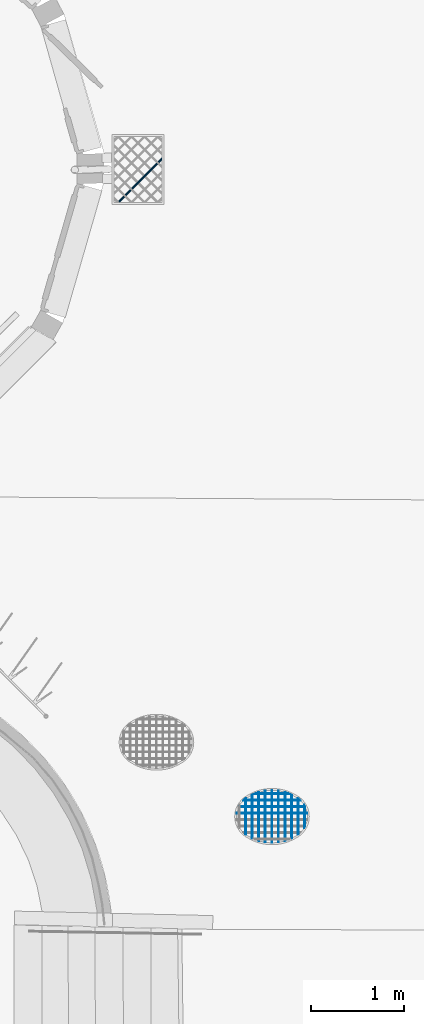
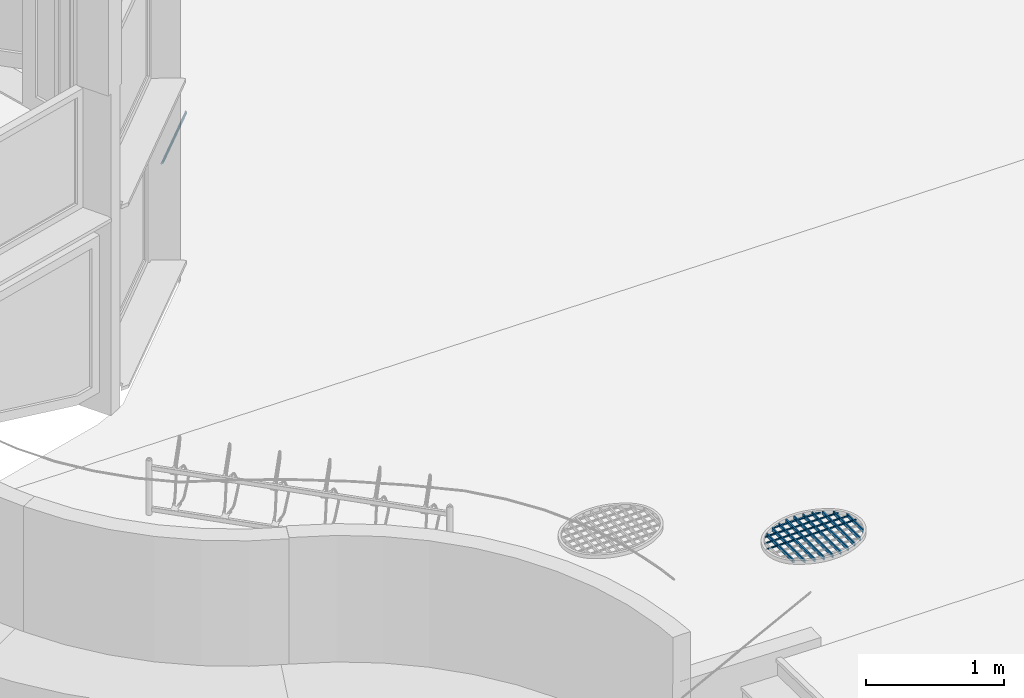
# One storey, part 44 of 133: 15 members, 2 elements without a shape of their own.
"""IFC2X3 building model written with IfcOpenShell, lengths in centimetres."""

from ifc_helpers import new_model, entity, si_unit, converted_unit, direction, frame, origin, origin_with_axes, place, context, subcontext, project, spatial, faceted_brep, material, type_object, element, aggregate, save


model = new_model("IFC2X3")

# Units and contexts
model_context = context("Model", 3, precision=0.0001, world=origin(), true_north=direction((0.225632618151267, 0.974212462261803, 0.0)))
body_context = subcontext(model_context, "Body", "Model", "MODEL_VIEW")
ifc_project = project(units=[si_unit("LENGTHUNIT", "METRE", prefix="CENTI"), si_unit("AREAUNIT", "SQUARE_METRE", prefix="CENTI"), si_unit("VOLUMEUNIT", "CUBIC_METRE", prefix="CENTI"), converted_unit("PLANEANGLEUNIT", "DEGREE", entity("IfcRatioMeasure", 0.0174532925), si_unit("PLANEANGLEUNIT", "RADIAN"), dimensions=[0, 0, 0, 0, 0, 0, 0])], contexts=[model_context])

# Site, building, storey
site_placement = place(None, origin_with_axes())
site = spatial("IfcSite", under=ifc_project, at=site_placement, Name="Default Site", CompositionType="ELEMENT")
building_placement = place(site_placement, origin_with_axes())
building = spatial("IfcBuilding", under=site, at=building_placement, Name="Default Building", CompositionType="ELEMENT")
storey_placement = place(building_placement, frame((0.0, 0.0, -291.400371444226), z_axis=(0.0, 0.0, 1.0), x_axis=(1.0, 0.0, 0.0)))
storey = spatial("IfcBuildingStorey", under=building, at=storey_placement, Name="Rez-de-Jardin", CompositionType="ELEMENT", Elevation=-291.400371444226)

# Assembly, member
building_element_proxy_type = type_object("IfcBuildingElementProxyType", Name="Type Object", PredefinedType="NOTDEFINED")
assembly_1_placement = place(storey_placement, frame((1661.43547545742, -586.48555921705, 97.0), z_axis=(0.0, 1.0, -2.38697950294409e-15), x_axis=(1.0, 0.0, 0.0)))
assembly_1 = element("IfcElementAssembly", 1, at=assembly_1_placement, inside=storey, type_object=building_element_proxy_type, Name="Panneau 294972", ObjectType="Precast panel", PredefinedType="USERDEFINED")
ifc_material_1 = material(Name="Aluminium satiné")
member_1_placement = place(assembly_1_placement, frame((54.000002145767, 0.342020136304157, 48.0289369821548), z_axis=(0.999999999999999, 0.0, 0.0), x_axis=(0.0, -0.774594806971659, -0.632457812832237)))
member_1 = element("IfcMember", 2, at=member_1_placement, material=ifc_material_1, Name="4294966996", context=body_context, shape_type="Brep", body=[
    faceted_brep([(-5.55111512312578e-15, 3.33066907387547e-14, 2.22044604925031e-14), (-0.388290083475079, 3.33066907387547e-14, 2.22044604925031e-14), (-0.799166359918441, -0.150246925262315, 2.22044604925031e-14), (-1.1830751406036, -0.43262366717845, 2.22044604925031e-14), (-1.49370756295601, -0.813066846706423, 2.22044604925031e-14), (-1.69359615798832, -1.24568864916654, 2.22044604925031e-14), (-1.75863854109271, -1.67831715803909, 2.22044604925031e-14), (-1.68097899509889, -2.05875802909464, 2.22044604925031e-14), (-1.46999321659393, -2.34113520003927, 2.22044604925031e-14), (-1.15112495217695, -2.49138464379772, 2.22044604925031e-14), (-0.762838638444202, -2.49138926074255, 2.22044604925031e-14), (-0.351958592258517, -2.34113771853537, 2.22044604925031e-14), (0.0319464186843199, -2.05876559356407, 2.22044604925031e-14), (0.342578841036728, -1.6783224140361, 2.22044604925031e-14), (0.542471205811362, -1.24569599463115, 2.22044604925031e-14), (0.60750981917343, -0.813072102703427, 2.22044604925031e-14), (0.529854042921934, -0.432626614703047, 2.22044604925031e-14), (0.318866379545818, -0.150251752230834, 2.22044604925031e-14), (29.3762878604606, 35.4374622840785, -45.9436528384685), (29.6412148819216, 35.221148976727, -46.0289403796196), (29.8741878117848, 35.0309262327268, -46.2745159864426), (30.0471066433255, 34.8897377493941, -46.6507598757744), (30.1391148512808, 34.8146129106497, -47.1122905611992), (30.1391148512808, 34.8146129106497, -47.6034417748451), (30.0471066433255, 34.8897377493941, -48.064973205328), (29.8741878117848, 35.0309262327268, -48.4412170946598), (29.6412148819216, 35.221148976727, -48.6867927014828), (29.3762878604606, 35.4374622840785, -48.7720802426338), (29.1113608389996, 35.65377559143, -48.6867927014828), (28.8783879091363, 35.8439983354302, -48.4412170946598), (28.7054690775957, 35.9851868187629, -48.064973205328), (28.6134608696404, 36.0603116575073, -47.6034417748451), (28.6134608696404, 36.0603116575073, -47.1122905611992), (28.7054690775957, 35.9851868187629, -46.6507598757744), (28.8783879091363, 35.8439983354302, -46.2745159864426), (29.1113608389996, 35.65377559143, -46.0289403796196), (0.52985315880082, -0.432627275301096, -1.07086510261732e-06), (29.6412153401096, 35.2211493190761, -46.0289398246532), (29.376288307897, 35.4374626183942, -45.9436522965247), (0.607510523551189, -0.813071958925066, 5.56859211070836e-07), (29.8741893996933, 35.0309265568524, -46.2745147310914), (29.6412164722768, 35.221149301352, -46.0289391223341), (0.542470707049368, -1.24569591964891, -2.57365042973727e-07), (30.0471074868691, 34.8897376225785, -46.6507594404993), (29.8741885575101, 35.0309261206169, -46.2745156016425), (0.342579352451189, -1.67832265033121, 1.40415125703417e-07), (30.1391154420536, 34.8146126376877, -47.1122903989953), (30.0471073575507, 34.8897374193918, -46.6507596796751), (0.031946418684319, -2.05876559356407, 2.22044604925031e-14), (30.1391148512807, 34.8146129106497, -47.6034417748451), (30.1391148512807, 34.8146129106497, -47.1122905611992), (-0.351958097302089, -2.34113839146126, -2.08205812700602e-07), (30.047106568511, 34.8897378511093, -48.0649731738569), (30.1391147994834, 34.8146129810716, -47.6034417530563), (-0.762839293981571, -2.49138746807, 9.73995145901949e-07), (29.8741872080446, 35.0309278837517, -48.4412161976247), (30.0471060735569, 34.889739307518, -48.0649723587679), (-1.15112495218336, -2.49138681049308, -1.67831500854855e-06), (29.641214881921, 35.2211487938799, -48.6867928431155), (29.8741878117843, 35.0309260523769, -48.4412172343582), (-1.46999305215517, -2.34113485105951, 3.74318512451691e-07), (29.37628873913, 35.4374641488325, -48.7720782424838), (29.6412157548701, 35.2211508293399, -48.6867907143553), (-1.68097930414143, -2.0587582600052, -3.74318470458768e-07), (29.1113621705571, 35.6537765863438, -48.6867910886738), (29.3762892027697, 35.4374632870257, -48.7720786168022), (-1.75863641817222, -1.67831672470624, 1.67831505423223e-06), (28.8783898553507, 35.8439987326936, -48.4412155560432), (29.1113627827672, 35.653775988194, -48.6867911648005), (-1.69359804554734, -1.24568836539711, -9.73995100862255e-07), (28.7054688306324, 35.9851868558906, -48.064973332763), (28.8783877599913, 35.8439983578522, -48.4412171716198), (-1.49370680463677, -0.813067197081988, 2.08205856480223e-07), (28.613461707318, 36.0603112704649, -47.6034415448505), (28.7054699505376, 35.9851864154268, -48.0649729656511), (-1.1830751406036, -0.432623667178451, 2.22044604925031e-14), (-0.799166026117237, -0.150247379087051, -1.40415081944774e-07), (28.7054689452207, 35.9851869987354, -46.6507598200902), (28.6134608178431, 36.0603117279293, -47.1122905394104), (-0.388290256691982, 4.73689563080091e-07, 2.57365088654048e-07), (28.8783874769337, 35.8439995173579, -46.2745153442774), (28.7054686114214, 35.9851880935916, -46.6507591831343), (-2.1351764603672e-12, -7.18902078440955e-07, -5.56859167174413e-07), (29.1113608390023, 35.6537764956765, -46.0289396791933), (28.878387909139, 35.8439992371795, -46.2745152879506), (0.318866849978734, -0.150250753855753, 1.07086514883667e-06), (29.3762885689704, 35.4374637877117, -45.9436512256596), (29.1113615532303, 35.6537771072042, -46.028938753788)], [[[0, 1, 2, 3, 4, 5, 6, 7, 8, 9, 10, 11, 12, 13, 14, 15, 16, 17]], [[18, 19, 20, 21, 22, 23, 24, 25, 26, 27, 28, 29, 30, 31, 32, 33, 34, 35]], [[17, 36, 37, 38]], [[16, 39, 40, 41]], [[15, 42, 43, 44]], [[14, 45, 46, 47]], [[13, 48, 49, 50]], [[12, 51, 52, 53]], [[11, 54, 55, 56]], [[10, 57, 58, 59]], [[9, 60, 61, 62]], [[8, 63, 64, 65]], [[7, 66, 67, 68]], [[6, 69, 70, 71]], [[5, 72, 73, 74]], [[4, 75, 32, 31]], [[3, 76, 77, 78]], [[2, 79, 80, 81]], [[1, 82, 83, 84]], [[0, 85, 86, 87]]]),
])
aggregate(assembly_1, [member_1])

# Assembly, members
assembly_2_placement = place(storey_placement, frame((1793.16993622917, -1212.9155813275, 107.795800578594), z_axis=(0.0, -1.0, -9.43689570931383e-16), x_axis=(1.0, 0.0, 0.0)))
assembly_2 = element("IfcElementAssembly", 3, at=assembly_2_placement, inside=storey, type_object=building_element_proxy_type, Name="Panneau 294968", ObjectType="Precast panel", PredefinedType="USERDEFINED")
ifc_material_2 = material(Name="Acier")
member_2_placement = place(assembly_2_placement, frame((77.6661574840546, 0.499999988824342, 26.1905789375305), z_axis=(0.989079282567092, -3.98866626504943e-22, -0.147384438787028), x_axis=(-0.147384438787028, -9.33383803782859e-16, -0.989079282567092)))
member_2 = element("IfcMember", 4, at=member_2_placement, material=ifc_material_2, Name="4294966959", context=body_context, shape_type="Brep", body=[
    faceted_brep([(1.94289029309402e-13, 9.54097911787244e-15, -1.11022302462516e-14), (-1.0110403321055, 8.5868812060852e-15, -4.32051911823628e-07), (-1.0110403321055, -0.99999997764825, -4.32051911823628e-07), (1.94289029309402e-13, -0.999999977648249, -1.11022302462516e-14), (11.1028107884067, -0.999999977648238, -74.5096308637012), (10.1356943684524, -0.999999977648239, -74.8043990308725), (10.1356943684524, 1.89952220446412e-14, -74.8043990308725), (11.1028107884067, 1.99493199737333e-14, -74.5096308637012), (-1.01104033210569, -0.99999997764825, -2.22044604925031e-14), (10.1356943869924, -0.999999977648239, -74.804399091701), (-1.01104033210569, 8.58688120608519e-15, -2.23322961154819e-14), (10.1356943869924, 1.8995222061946e-14, -74.804399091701), (-1.01104033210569, 8.5868812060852e-15, -2.22044604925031e-14), (1.94289029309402e-13, 9.53056987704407e-15, -1.11022302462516e-14), (11.1028107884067, 1.98937239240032e-14, -74.5096308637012), (10.1356943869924, 1.89910330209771e-14, -74.804399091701), (1.95202138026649e-13, -0.999999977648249, -1.09661663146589e-14)], [[[0, 1, 2, 3]], [[4, 5, 6, 7]], [[3, 8, 9, 4]], [[8, 10, 11, 9]], [[12, 13, 14, 15]], [[0, 16, 4, 7]]]),
])
member_3_placement = place(assembly_2_placement, frame((75.3061056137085, 0.499999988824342, 19.1905781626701), z_axis=(0.896938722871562, -2.6570814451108e-21, -0.442154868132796), x_axis=(-0.442154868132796, -8.46431718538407e-16, -0.896938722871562)))
member_3 = element("IfcMember", 5, at=member_3_placement, material=ifc_material_2, Name="4294966958", context=body_context, shape_type="Brep", body=[
    faceted_brep([(5.55111512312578e-14, 2.37657116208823e-14, 3.33066907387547e-13), (-1.1149039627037, 2.2811613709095e-14, -3.49985744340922e-06), (-1.1149039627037, -0.999999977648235, -3.49985744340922e-06), (5.55111512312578e-14, -0.999999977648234, 3.33066907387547e-13), (31.2215342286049, -0.999999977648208, -63.3348291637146), (30.5425581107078, -0.999999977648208, -64.2191358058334), (30.5425581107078, 4.96130915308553e-14, -64.2191358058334), (31.2215342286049, 5.02202446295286e-14, -63.3348291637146), (-1.11490396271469, -0.999999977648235, 3.33066907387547e-13), (30.5425579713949, -0.999999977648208, -64.2191356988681), (-1.11490396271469, 2.2811613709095e-14, 3.3276010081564e-13), (30.5425579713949, 4.96130914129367e-14, -64.2191356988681), (-1.11490396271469, 2.2811613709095e-14, 3.33066907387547e-13), (5.55111512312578e-14, 2.37553037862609e-14, 3.33066907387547e-13), (31.2215342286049, 5.01820323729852e-14, -63.3348291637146), (30.5425579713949, 4.96073229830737e-14, -64.2191356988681), (5.61921058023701e-14, -0.999999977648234, 3.33402590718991e-13)], [[[0, 1, 2, 3]], [[4, 5, 6, 7]], [[3, 8, 9, 4]], [[8, 10, 11, 9]], [[12, 13, 14, 15]], [[0, 16, 4, 7]]]),
])
member_4_placement = place(assembly_2_placement, frame((69.760262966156, 0.499999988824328, 12.1905788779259), z_axis=(0.675980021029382, 1.52179475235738e-22, -0.736919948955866), x_axis=(-0.736919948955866, -6.37915296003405e-16, -0.675980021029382)))
member_4 = element("IfcMember", 6, at=member_4_placement, material=ifc_material_2, Name="4294966957", context=body_context, shape_type="Brep", body=[
    faceted_brep([(4.44089209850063e-14, 5.07406616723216e-14, -1.0547118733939e-13), (-1.47933445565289, 4.97865637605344e-14, 3.52906217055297e-07), (-1.47933445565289, -0.999999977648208, 3.52906217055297e-07), (4.44089209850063e-14, -0.999999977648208, -1.0547118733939e-13), (43.8618609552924, -0.999999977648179, -40.2346845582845), (43.9892349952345, -0.999999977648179, -41.7085252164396), (43.9892349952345, 7.88431822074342e-14, -41.7085252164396), (43.8618609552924, 7.8756445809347e-14, -40.2346845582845), (-1.47933445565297, -0.999999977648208, -1.0547118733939e-13), (43.9892346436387, -0.999999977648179, -41.7085252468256), (43.8618609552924, -0.99999997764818, -40.2346845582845), (-1.47933445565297, 4.97865637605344e-14, -1.05726857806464e-13), (43.9892346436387, 7.88431819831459e-14, -41.7085252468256), (-1.47933445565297, 4.97865637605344e-14, -1.0547118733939e-13), (4.44089209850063e-14, 5.07302538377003e-14, -1.0547118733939e-13), (43.8618609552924, 7.8710411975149e-14, -40.2346845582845), (43.9892346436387, 7.87916658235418e-14, -41.7085252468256), (4.47004156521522e-14, -0.999999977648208, -1.05153414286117e-13)], [[[0, 1, 2, 3]], [[4, 5, 6, 7]], [[3, 8, 9, 10]], [[8, 11, 12, 9]], [[13, 14, 15, 16]], [[0, 17, 4, 7]]]),
])
member_5_placement = place(assembly_2_placement, frame((57.2942495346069, 0.499999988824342, 5.19057884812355), z_axis=(0.383760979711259, -1.08145644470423e-22, -0.923432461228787), x_axis=(-0.923432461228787, -3.62151234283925e-16, -0.383760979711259)))
member_5 = element("IfcMember", 7, at=member_5_placement, material=ifc_material_2, Name="4294966956", context=body_context, shape_type="Brep", body=[
    faceted_brep([(-4.44089209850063e-14, 2.45463371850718e-14, 1.38777878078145e-13), (-2.60578809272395, 2.35922392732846e-14, -7.7814061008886e-07), (-2.60578809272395, -0.999999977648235, -7.7814061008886e-07), (-4.44089209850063e-14, -0.999999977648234, 1.38777878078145e-13), (31.9401417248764, -0.999999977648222, -13.2737158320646), (33.7784064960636, -0.999999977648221, -15.1205799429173), (33.7784064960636, 3.6776137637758e-14, -15.1205799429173), (31.9401417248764, 3.60822483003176e-14, -13.2737158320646), (-2.60578809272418, -0.999999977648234, 1.38777878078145e-13), (33.778406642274, -0.999999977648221, -15.1205797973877), (-2.60578809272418, -0.999999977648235, 1.38777878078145e-13), (-2.60578809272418, 2.35922392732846e-14, 1.38617688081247e-13), (33.778406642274, 3.67761376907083e-14, -15.1205797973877), (-2.60578809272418, 2.35922392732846e-14, 1.38777878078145e-13), (-4.44089209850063e-14, 2.4535928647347e-14, 1.38777878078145e-13), (31.9401417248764, 3.61030889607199e-14, -13.2737158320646), (33.778406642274, 3.6768818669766e-14, -15.1205797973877), (-4.43555860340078e-14, -0.999999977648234, 1.38906216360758e-13)], [[[0, 1, 2, 3]], [[4, 5, 6, 7]], [[3, 8, 9, 4]], [[10, 11, 12, 9]], [[13, 14, 15, 16]], [[0, 17, 4, 7]]]),
])
member_6_placement = place(assembly_2_placement, frame((12.5, 1.4999999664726, 49.9091804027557), z_axis=(-0.578903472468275, -4.55363556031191e-22, 0.815396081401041), x_axis=(0.815396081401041, 5.46305169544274e-16, 0.578903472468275)))
member_6 = element("IfcMember", 8, at=member_6_placement, material=ifc_material_2, Name="4294966954", context=body_context, shape_type="Brep", body=[
    faceted_brep([(0.0, -6.50521303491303e-14, 4.9960036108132e-14), (-1.22639759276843, -6.43582409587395e-14, 1.02224329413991e-06), (-1.22639759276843, -2.99999993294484, 1.02224329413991e-06), (0.0, -2.99999993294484, 4.9960036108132e-14), (-22.8303333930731, -2.99999993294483, -32.1569402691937), (-23.2347283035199, -2.99999993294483, -30.9991347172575), (-23.2347283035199, -5.23886490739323e-14, -30.9991347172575), (-22.8303333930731, -5.25621213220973e-14, -32.1569402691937), (-1.22639759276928, -2.99999993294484, 4.9960036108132e-14), (-23.2347284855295, -2.99999993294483, -30.9991347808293), (-1.22639759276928, -6.43582409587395e-14, 4.91566461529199e-14), (-23.2347284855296, -5.23886489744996e-14, -30.9991347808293), (-23.2347284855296, -2.99999993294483, -30.9991347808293), (-1.22639759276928, -6.43582409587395e-14, 4.9960036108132e-14), (1.30578110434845e-32, -6.50282283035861e-14, 4.9960036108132e-14), (-22.8303333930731, -5.25559137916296e-14, -32.1569402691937), (-23.2347284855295, -5.23349901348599e-14, -30.9991347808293), (-1.08966763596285e-15, -2.99999993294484, 5.07336630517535e-14)], [[[0, 1, 2, 3]], [[4, 5, 6, 7]], [[3, 8, 9, 4]], [[8, 10, 11, 12]], [[13, 14, 15, 16]], [[0, 17, 4, 7]]]),
])
member_7_placement = place(assembly_2_placement, frame((19.4999992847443, 1.4999999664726, 53.8079917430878), z_axis=(-0.435682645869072, -5.25057452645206e-23, 0.900100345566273), x_axis=(0.900100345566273, 4.11149169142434e-16, 0.435682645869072)))
member_7 = element("IfcMember", 9, at=member_7_placement, material=ifc_material_2, Name="4294966953", context=body_context, shape_type="Brep", body=[
    faceted_brep([(-8.32667268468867e-14, 5.20417042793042e-15, -1.99840144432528e-13), (-1.11098618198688, 5.55111512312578e-15, 1.41878130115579e-07), (-1.11098618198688, -2.99999993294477, 1.41878130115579e-07), (-8.32667268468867e-14, -2.99999993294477, -1.99840144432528e-13), (-20.5793942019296, -2.99999993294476, -42.5160836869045), (-21.2686071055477, -2.99999993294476, -41.6447193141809), (-21.2686071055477, 1.38777878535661e-14, -41.6447193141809), (-20.5793942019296, 1.37043154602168e-14, -42.5160836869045), (-1.11098618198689, -2.99999993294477, -1.99840144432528e-13), (-21.2686069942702, -2.99999993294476, -41.6447192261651), (-1.11098618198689, 5.55111512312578e-15, -2.00293617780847e-13), (-21.2686069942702, 1.38777878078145e-14, -41.6447192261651), (-1.11098618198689, 5.55111512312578e-15, -1.99840144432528e-13), (-8.32667268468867e-14, 5.09433407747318e-15, -1.99840144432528e-13), (-20.5793942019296, 1.35555326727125e-14, -42.5160836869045), (-21.2686069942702, 1.38389019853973e-14, -41.6447192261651), (-8.42660421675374e-14, -2.99999993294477, -1.99356437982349e-13)], [[[0, 1, 2, 3]], [[4, 5, 6, 7]], [[3, 8, 9, 4]], [[8, 10, 11, 9]], [[12, 13, 14, 15]], [[0, 16, 4, 7]]]),
])
member_8_placement = place(assembly_2_placement, frame((26.4999985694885, 1.4999999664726, 56.4549505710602), z_axis=(-0.290456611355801, -4.55142483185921e-22, 0.956888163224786), x_axis=(0.956888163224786, 2.74100874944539e-16, 0.290456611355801)))
member_8 = element("IfcMember", 10, at=member_8_placement, material=ifc_material_2, Name="4294966952", context=body_context, shape_type="Brep", body=[
    faceted_brep([(-3.33066907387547e-13, -1.17961196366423e-14, -3.88578058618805e-14), (-1.0450532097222, -1.14491749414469e-14, 1.73530311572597e-06), (-1.0450532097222, -2.99999993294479, 1.73530311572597e-06), (-3.33066907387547e-13, -2.99999993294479, -3.88578058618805e-14), (-15.2573209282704, -2.99999993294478, -50.2641331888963), (-16.126042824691, -2.99999993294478, -49.6832222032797), (-16.126042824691, -7.28583855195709e-15, -49.6832222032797), (-15.2573209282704, -7.63278329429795e-15, -50.2641331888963), (-1.04505320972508, -2.99999993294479, -2.77555756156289e-14), (-16.12604265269, -2.99999993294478, -49.6832219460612), (-1.04505320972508, -1.14491749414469e-14, -2.80075065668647e-14), (-16.12604265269, -7.28583859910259e-15, -49.6832219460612), (-1.04505320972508, -1.14491749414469e-14, -2.77555756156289e-14), (-3.33066907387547e-13, -1.17356249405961e-14, -3.88578058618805e-14), (-15.2573209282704, -7.55360280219e-15, -50.2641331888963), (-16.12604265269, -7.31548515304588e-15, -49.6832219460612), (-3.33819836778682e-13, -2.99999993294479, -3.86292594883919e-14)], [[[0, 1, 2, 3]], [[4, 5, 6, 7]], [[3, 8, 9, 4]], [[8, 10, 11, 9]], [[12, 13, 14, 15]], [[0, 16, 4, 7]]]),
])
member_9_placement = place(assembly_2_placement, frame((33.500000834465, 1.4999999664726, 57.9435467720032), z_axis=(-0.145231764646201, -5.90074676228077e-22, 0.989397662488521), x_axis=(0.989397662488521, 1.37053701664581e-16, 0.145231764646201)))
member_9 = element("IfcMember", 11, at=member_9_placement, material=ifc_material_2, Name="4294966951", context=body_context, shape_type="Brep", body=[
    faceted_brep([(1.22124532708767e-13, 1.6306400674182e-14, -5.55111512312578e-14), (-1.01071799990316, 1.64798730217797e-14, 4.35157227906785e-06), (-1.01071799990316, -2.99999993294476, 4.35157227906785e-06), (1.22124532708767e-13, -2.99999993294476, -5.55111512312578e-14), (-8.06122468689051, -2.99999993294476, -54.9174409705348), (-9.02930662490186, -2.99999993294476, -54.6269812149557), (-9.02930662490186, 1.75207070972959e-14, -54.6269812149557), (-8.06122468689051, 1.75207071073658e-14, -54.9174409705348), (-1.0107179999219, -2.99999993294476, -5.55111512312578e-14), (-9.02930669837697, -2.99999993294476, -54.6269814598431), (-1.01071799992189, 1.64798730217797e-14, -5.55615386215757e-14), (-9.02930669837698, 1.75207071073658e-14, -54.6269814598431), (-9.02930669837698, -2.99999993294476, -54.6269814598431), (-1.0107179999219, 1.64798730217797e-14, -5.55111512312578e-14), (1.22124532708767e-13, 1.63413503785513e-14, -5.55111512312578e-14), (-8.06122468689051, 1.74461386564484e-14, -54.9174409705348), (-9.02930669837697, 1.75788180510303e-14, -54.6269814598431), (1.21722043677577e-13, -2.99999993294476, -5.54520706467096e-14)], [[[0, 1, 2, 3]], [[4, 5, 6, 7]], [[3, 8, 9, 4]], [[8, 10, 11, 12]], [[13, 14, 15, 16]], [[0, 17, 4, 7]]]),
])
member_10_placement = place(assembly_2_placement, frame((40.5000001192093, 1.4999999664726, 58.3811581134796), z_axis=(0.0, 0.0, 1.0), x_axis=(1.0, 0.0, 0.0)))
member_10 = element("IfcMember", 12, at=member_10_placement, material=ifc_material_2, Name="4294966950", context=body_context, shape_type="Brep", body=[
    faceted_brep([(0.0, 0.0, -1.77635683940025e-13), (-0.999999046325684, 0.0, -1.99840123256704e-13), (-0.999999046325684, -2.99999993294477, -1.99840123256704e-13), (0.0, -2.99999993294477, -1.77635683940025e-13), (0.0, -2.99999993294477, -56.3811581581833), (-0.999999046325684, -2.99999993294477, -56.3811581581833), (-0.999999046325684, 0.0, -56.3811581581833), (0.0, 0.0, -56.3811581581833), (-0.999999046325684, -2.99999993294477, -1.77635683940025e-13), (-0.999999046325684, 0.0, -1.77635683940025e-13), (-0.999999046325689, 0.0, -56.3811581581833), (-0.999999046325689, -2.99999993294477, -56.3811581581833), (-5.5511151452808e-15, -2.99999993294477, -56.3811581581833), (-5.5511151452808e-15, 0.0, -56.3811581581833)], [[[0, 1, 2, 3]], [[4, 5, 6, 7]], [[3, 8, 5, 4]], [[8, 9, 10, 11]], [[9, 0, 7, 6]], [[0, 3, 12, 13]]]),
])
member_11_placement = place(assembly_2_placement, frame((47.4999994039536, 1.4999999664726, 57.7967584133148), z_axis=(0.145232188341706, -6.48767873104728e-22, 0.989397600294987), x_axis=(0.989397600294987, -1.3705410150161e-16, -0.145232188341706)))
member_11 = element("IfcMember", 13, at=member_11_placement, material=ifc_material_2, Name="4294966949", context=body_context, shape_type="Brep", body=[
    faceted_brep([(-8.32667268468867e-14, 4.85722573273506e-15, -1.88737914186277e-13), (-1.01071505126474, 4.85722573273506e-15, -4.78438421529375e-06), (-1.01071505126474, -2.99999993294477, -4.78438421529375e-06), (-8.32667268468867e-14, -2.99999993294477, -1.88737914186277e-13), (8.01861209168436, -2.99999993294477, -54.6269780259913), (7.05053310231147, -2.99999993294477, -54.9174373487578), (7.05053310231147, 5.89805981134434e-15, -54.9174373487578), (8.01861209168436, 6.07153216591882e-15, -54.6269780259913), (-1.01071505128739, -2.99999993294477, -1.77635683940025e-13), (7.05053315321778, -2.99999993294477, -54.9174375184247), (-1.01071505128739, 4.85722573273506e-15, -1.77686071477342e-13), (7.05053315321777, 5.89805981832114e-15, -54.9174375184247), (7.05053315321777, -2.99999993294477, -54.9174375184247), (-1.01071505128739, 4.85722573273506e-15, -1.77635683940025e-13), (-8.32667268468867e-14, 4.99574837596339e-15, -1.88737914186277e-13), (8.01861209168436, 6.0946966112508e-15, -54.6269780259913), (7.05053315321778, 5.96201723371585e-15, -54.9174375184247), (-8.2864236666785e-14, -2.99999993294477, -1.88678833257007e-13)], [[[0, 1, 2, 3]], [[4, 5, 6, 7]], [[3, 8, 9, 4]], [[8, 10, 11, 12]], [[13, 14, 15, 16]], [[0, 17, 4, 7]]]),
])
member_12_placement = place(assembly_2_placement, frame((54.5000016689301, 1.4999999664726, 56.151407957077), z_axis=(0.290456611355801, -4.55142483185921e-22, 0.956888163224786), x_axis=(0.956888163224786, -2.74100874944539e-16, -0.290456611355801)))
member_12 = element("IfcMember", 14, at=member_12_placement, material=ifc_material_2, Name="4294966948", context=body_context, shape_type="Brep", body=[
    faceted_brep([(7.21644966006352e-14, -3.48679418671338e-14, -3.77475828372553e-13), (-1.0450532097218, -3.52148865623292e-14, -1.73530353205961e-06), (-1.0450532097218, -2.99999993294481, -1.73530353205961e-06), (7.21644966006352e-14, -2.99999993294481, -3.77475828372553e-13), (15.080989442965, -2.9999999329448, -49.6832219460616), (14.2122675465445, -2.99999993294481, -50.2641329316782), (14.2122675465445, -3.10515502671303e-14, -50.2641329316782), (15.080989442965, -3.08780778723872e-14, -49.6832219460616), (-1.04505320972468, -2.99999993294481, -3.77475828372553e-13), (14.2122677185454, -2.9999999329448, -50.2641331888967), (15.080989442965, -2.9999999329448, -49.6832219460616), (-1.04505320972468, -3.52148865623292e-14, -3.77727759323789e-13), (14.2122677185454, -3.10515502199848e-14, -50.2641331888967), (-1.04505320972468, -3.52148865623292e-14, -3.77475828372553e-13), (7.21644966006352e-14, -3.492843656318e-14, -3.77475828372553e-13), (15.080989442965, -3.0794746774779e-14, -49.6832219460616), (14.2122677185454, -3.10328644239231e-14, -50.2641331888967), (7.29174259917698e-14, -2.99999993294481, -3.77247281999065e-13)], [[[0, 1, 2, 3]], [[4, 5, 6, 7]], [[3, 8, 9, 10]], [[8, 11, 12, 9]], [[13, 14, 15, 16]], [[0, 17, 4, 7]]]),
])
member_13_placement = place(assembly_2_placement, frame((61.5000009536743, 1.4999999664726, 53.3239543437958), z_axis=(0.435682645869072, -5.25057452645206e-23, 0.900100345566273), x_axis=(0.900100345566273, -4.11149169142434e-16, -0.435682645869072)))
member_13 = element("IfcMember", 15, at=member_13_placement, material=ifc_material_2, Name="4294966947", context=body_context, shape_type="Brep", body=[
    faceted_brep([(1.55431223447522e-13, -9.19403442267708e-15, -1.77635683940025e-13), (-1.11098618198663, -9.54097911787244e-15, -1.41878507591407e-07), (-1.11098618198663, -2.99999993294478, -1.41878507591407e-07), (1.55431223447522e-13, -2.99999993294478, -1.77635683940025e-13), (20.1576208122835, -2.99999993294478, -41.6447192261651), (19.4684079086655, -2.99999993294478, -42.5160835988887), (19.4684079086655, -1.2143064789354e-15, -42.5160835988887), (20.1576208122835, -8.67361737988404e-16, -41.6447192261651), (-1.11098618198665, -2.99999993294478, -1.77635683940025e-13), (19.4684080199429, -2.99999993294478, -42.5160836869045), (-1.11098618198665, -9.54097911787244e-15, -1.78089157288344e-13), (19.4684080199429, -1.21430643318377e-15, -42.5160836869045), (-1.11098618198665, -9.54097911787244e-15, -1.77635683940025e-13), (1.55431223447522e-13, -9.08419807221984e-15, -1.77635683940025e-13), (20.1576208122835, -7.96411209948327e-16, -41.6447192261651), (19.4684080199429, -1.07978052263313e-15, -42.5160836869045), (1.56430538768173e-13, -2.99999993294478, -1.77151977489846e-13), (20.1576208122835, -2.99999993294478, -41.6447192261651), (20.1576208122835, -8.67361737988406e-16, -41.6447192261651)], [[[0, 1, 2, 3]], [[4, 5, 6, 7]], [[3, 8, 9, 4]], [[8, 10, 11, 9]], [[12, 13, 14, 15]], [[0, 16, 17, 18]]]),
])
member_14_placement = place(assembly_2_placement, frame((68.5000002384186, 1.4999999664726, 49.1992145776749), z_axis=(0.578903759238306, -6.47496232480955e-22, 0.815395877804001), x_axis=(0.815395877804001, -5.46305440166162e-16, -0.578903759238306)))
member_14 = element("IfcMember", 16, at=member_14_placement, material=ifc_material_2, Name="4294966946", context=body_context, shape_type="Brep", body=[
    faceted_brep([(6.66133814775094e-14, -2.98372437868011e-14, -3.88578058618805e-13), (-1.22639698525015, -3.05311331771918e-14, -1.45355982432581e-06), (-1.22639698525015, -2.9999999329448, -1.45355982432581e-06), (6.66133814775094e-14, -2.9999999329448, -3.88578058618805e-13), (22.0083417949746, -2.99999993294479, -30.9991270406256), (21.6039474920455, -2.99999993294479, -32.1569321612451), (21.6039474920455, -1.80411242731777e-14, -32.1569321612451), (22.0083417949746, -1.76941794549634e-14, -30.9991270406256), (-1.22639698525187, -2.9999999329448, -3.88578058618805e-13), (21.603947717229, -2.99999993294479, -32.1569322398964), (-1.22639698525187, -3.05311331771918e-14, -3.8938144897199e-13), (21.603947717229, -1.80411241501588e-14, -32.1569322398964), (-1.22639698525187, -3.05311331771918e-14, -3.88578058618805e-13), (6.66133814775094e-14, -2.98611458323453e-14, -3.88578058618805e-13), (22.0083417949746, -1.78378890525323e-14, -30.9991270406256), (21.603947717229, -1.80588124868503e-14, -32.1569322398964), (6.77030493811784e-14, -2.9999999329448, -3.87804430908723e-13)], [[[0, 1, 2, 3]], [[4, 5, 6, 7]], [[3, 8, 9, 4]], [[8, 10, 11, 9]], [[12, 13, 14, 15]], [[0, 16, 4, 7]]]),
])
member_15_placement = place(assembly_2_placement, frame((75.4999995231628, 1.49999996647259, 40.8462643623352), z_axis=(0.873670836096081, -5.60095127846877e-24, 0.486517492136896), x_axis=(0.486517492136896, -8.24474056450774e-16, -0.873670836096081)))
member_15 = element("IfcMember", 17, at=member_15_placement, material=ifc_material_2, Name="4294966945", context=body_context, shape_type="Brep", body=[
    faceted_brep([(1.98625837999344e-13, 1.21430643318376e-15, -1.66533453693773e-13), (-2.05542259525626, -5.20417042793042e-16, -1.39633974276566e-08), (-2.05542259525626, -2.99999993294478, -1.39633974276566e-08), (2.01054450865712e-13, -2.99999993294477, -1.66533453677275e-13), (18.6191233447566, -2.99999993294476, -10.3683547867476), (19.7015125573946, -2.99999993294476, -12.1156959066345), (19.7015125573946, 1.75207065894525e-14, -12.1156959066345), (18.6191233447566, 1.64798730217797e-14, -10.3683547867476), (2.01054450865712e-13, -2.99999993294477, -1.66533453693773e-13), (-2.05542259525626, -2.99999993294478, -1.77635683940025e-13), (19.7015131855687, -2.99999993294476, -12.1156955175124), (-2.05542259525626, -5.20417042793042e-16, -1.7748412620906e-13), (19.7015131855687, 1.75207071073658e-14, -12.1156955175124), (-2.05542259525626, -5.20417042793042e-16, -1.77635683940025e-13), (1.98625837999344e-13, 1.17422556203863e-15, -1.66533453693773e-13), (18.6191233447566, 1.65252096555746e-14, -10.3683547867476), (19.7015131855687, 1.74176119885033e-14, -12.1156955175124), (2.01065057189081e-13, -2.99999993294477, -1.66514407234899e-13)], [[[0, 1, 2, 3]], [[4, 5, 6, 7]], [[8, 9, 10, 4]], [[9, 11, 12, 10]], [[13, 14, 15, 16]], [[0, 17, 4, 7]]]),
])
aggregate(assembly_2, [member_2, member_3, member_4, member_5, member_6, member_7, member_8, member_9, member_10, member_11, member_12, member_13, member_14, member_15])

save(model, "model.ifc")
